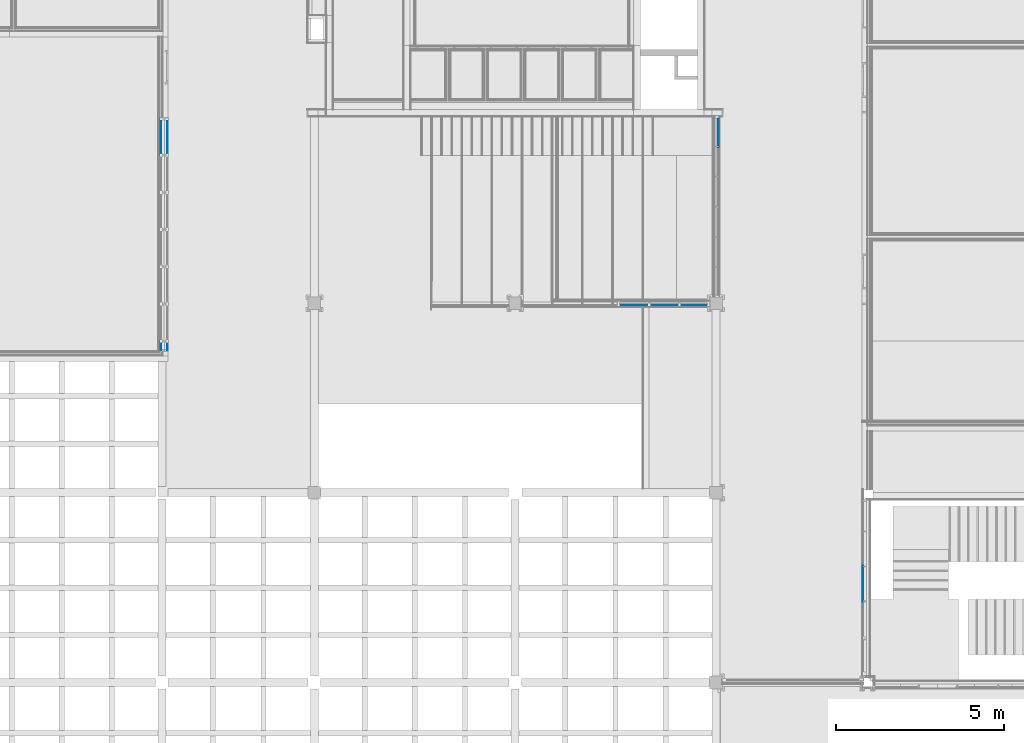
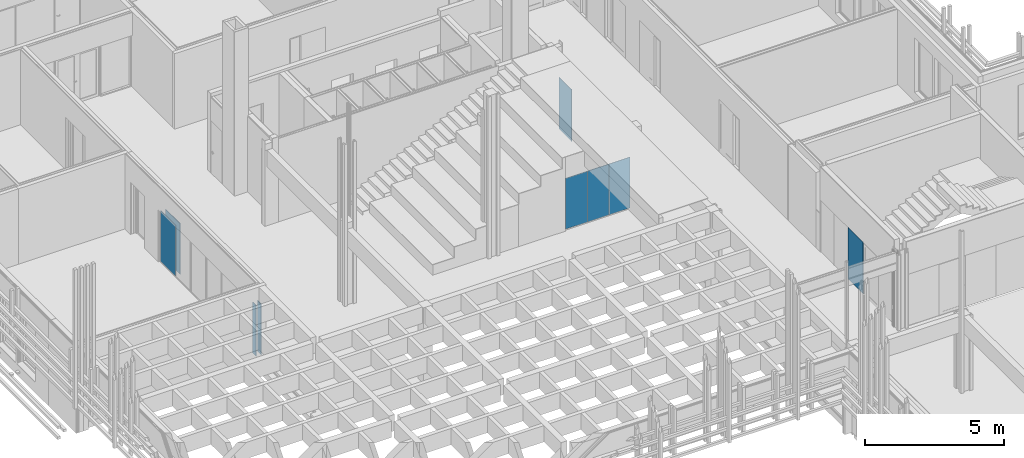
# One storey, part 53 of 139: 9 plates, 5 elements without a shape of their own.
"""IFC2X3 building model written with IfcOpenShell, lengths in millimetres."""

from ifc_helpers import new_model, entity, si_unit, converted_unit, derived_unit, money_unit, direction, frame, origin_with_axes, place, context, subcontext, project, spatial, faceted_brep, material, type_object, element, aggregate, save


model = new_model("IFC2X3")

# Units and contexts
model_context = context("Model", 3, precision=0.01, world=origin_with_axes(), true_north=direction((0.0, 1.0)))
body_context = subcontext(model_context, "Body", "Model", "MODEL_VIEW")
ifc_project = project(units=[si_unit("LENGTHUNIT", "METRE", prefix="MILLI"), si_unit("AREAUNIT", "SQUARE_METRE"), si_unit("VOLUMEUNIT", "CUBIC_METRE"), converted_unit("PLANEANGLEUNIT", "DEGREE", entity("IfcPlaneAngleMeasure", 0.0174532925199), si_unit("PLANEANGLEUNIT", "RADIAN"), dimensions=[0, 0, 0, 0, 0, 0, 0]), money_unit("EUR"), converted_unit("TIMEUNIT", "Year", entity("IfcTimeMeasure", 31556926.0), si_unit("TIMEUNIT", "SECOND"), dimensions=[0, 0, 1, 0, 0, 0, 0]), si_unit("MASSUNIT", "GRAM", prefix="KILO"), si_unit("THERMODYNAMICTEMPERATUREUNIT", "DEGREE_CELSIUS"), si_unit("LUMINOUSINTENSITYUNIT", "LUMEN"), si_unit("ENERGYUNIT", "JOULE", prefix="MEGA"), derived_unit("THERMALCONDUCTANCEUNIT", [(si_unit("POWERUNIT", "WATT"), 1), (si_unit("LENGTHUNIT", "METRE"), -1), (si_unit("THERMODYNAMICTEMPERATUREUNIT", "KELVIN"), -1)]), derived_unit("SPECIFICHEATCAPACITYUNIT", [(si_unit("ENERGYUNIT", "JOULE"), 1), (si_unit("MASSUNIT", "GRAM", prefix="KILO"), -1), (si_unit("THERMODYNAMICTEMPERATUREUNIT", "KELVIN"), -1)]), derived_unit("MASSDENSITYUNIT", [(si_unit("MASSUNIT", "GRAM", prefix="KILO"), 1), (si_unit("VOLUMEUNIT", "CUBIC_METRE"), -1)])], contexts=[model_context])

# Site, building, storey
site_placement = place(None, origin_with_axes())
site = spatial("IfcSite", under=ifc_project, at=site_placement, Name="Kolde pst 67a", CompositionType="ELEMENT")
building_placement = place(site_placement, origin_with_axes())
building = spatial("IfcBuilding", under=site, at=building_placement, Name="Riigigümnaasium", CompositionType="ELEMENT")
storey_placement = place(building_placement, frame((0.0, 0.0, 4600.0), z_axis=(0.0, 0.0, 1.0), x_axis=(1.0, 0.0, 0.0)))
storey = spatial("IfcBuildingStorey", under=building, at=storey_placement, Name="2. korrus", CompositionType="ELEMENT", Elevation=4600.0)

# Curtain wall, plate
curtain_wall_type = type_object("IfcCurtainWallType", Name="Curtain Wall Type", PredefinedType="NOTDEFINED")
curtain_wall_1_placement = place(storey_placement, frame((48304.9854607, 45219.9999598, 0.0), z_axis=(0.0, 0.0, 1.0), x_axis=(1.0, 0.0, 0.0)))
curtain_wall_1 = element("IfcCurtainWall", 1, at=curtain_wall_1_placement, inside=storey, type_object=curtain_wall_type, Name="KLAASSEIN")
ifc_material = material(Name="_GENEERILINE MATERJAL KLAAS")
plate_type_1 = type_object("IfcPlateType", Name="Distinct Panel 20 x 20 x 20", PredefinedType="NOTDEFINED")
plate_1_placement = place(curtain_wall_1_placement, frame((0.0, 0.0, 1150.0000447), z_axis=(0.0, 0.0, 1.0), x_axis=(0.0, 1.0, 0.0)))
plate_1 = element("IfcPlate", 2, at=plate_1_placement, type_object=plate_type_1, material=ifc_material, Name="RF PANEEL ERI-023", context=body_context, shape_type="Brep", body=[
    faceted_brep([(-470.00000149, 10.0, 1150.0000447), (-470.00000149, -10.0, 1150.0000447), (-449.999993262, -10.0, 1150.0000447), (-449.999993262, 10.0, 1150.0000447), (-470.00000149, 10.0, -1150.0000447), (-470.00000149, -10.0, -1150.0000447), (-449.999993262, -10.0, -1150.0000447), (-449.999993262, -10.0, -1130.00003648), (429.999991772, -10.0, -1130.00003648), (429.999991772, -10.0, 1130.00003648), (-449.999993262, -10.0, 1130.00003648), (-449.999993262, 10.0, 1130.00003648), (429.999991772, 10.0, 1130.00003648), (429.999991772, 10.0, -1130.00003648), (-449.999993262, 10.0, -1130.00003648), (-449.999993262, 10.0, -1150.0000447)], [[[0, 1, 2, 3]], [[4, 5, 1, 0]], [[1, 5, 6, 7, 8, 9, 10, 2]], [[3, 2, 10, 11]], [[0, 3, 11, 12, 13, 14, 15, 4]], [[15, 6, 5, 4]], [[14, 7, 6, 15]], [[13, 8, 7, 14]], [[12, 9, 8, 13]], [[11, 10, 9, 12]]]),
])
aggregate(curtain_wall_1, [plate_1])

curtain_wall_2_placement = place(storey_placement, frame((52619.9941222, 32759.7635899, -0.000120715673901), z_axis=(0.0, 0.0, 1.0), x_axis=(1.0, 0.0, 0.0)))
curtain_wall_2 = element("IfcCurtainWall", 3, at=curtain_wall_2_placement, inside=storey, type_object=curtain_wall_type, Name="KLAASSEIN")
plate_2_placement = place(curtain_wall_2_placement, frame((0.0, -1039.00000038, 1150.00006036), z_axis=(0.0, 0.0, 1.0), x_axis=(0.0, 1.0, 0.0)))
plate_2 = element("IfcPlate", 4, at=plate_2_placement, type_object=plate_type_1, material=ifc_material, Name="RF PANEEL ERI-061", context=body_context, shape_type="Brep", body=[
    faceted_brep([(-534.000007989, -10.0, 1150.00006036), (-513.999999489, -10.0, 1150.00006036), (-513.999999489, 10.0, 1150.00006036), (-534.000007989, 10.0, 1150.00006036), (-534.000007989, -10.0, -1150.00006036), (-513.999999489, -10.0, -1150.00006036), (-513.999999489, -10.0, -1130.00005186), (513.999991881, -10.0, -1130.00005186), (513.999991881, -10.0, -1150.00006036), (534.000000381, -10.0, -1150.00006036), (534.000000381, -10.0, 1150.00006036), (513.999991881, -10.0, 1150.00006036), (513.999991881, -10.0, 1130.00005186), (-513.999999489, -10.0, 1130.00005186), (-513.999999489, 10.0, 1130.00005186), (513.999991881, 10.0, 1130.00005186), (513.999991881, 10.0, 1150.00006036), (534.000000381, 10.0, 1150.00006036), (534.000000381, 10.0, -1150.00006036), (513.999991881, 10.0, -1150.00006036), (513.999991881, 10.0, -1130.00005186), (-513.999999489, 10.0, -1130.00005186), (-513.999999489, 10.0, -1150.00006036), (-534.000007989, 10.0, -1150.00006036)], [[[0, 1, 2, 3]], [[0, 4, 5, 6, 7, 8, 9, 10, 11, 12, 13, 1]], [[1, 13, 14, 2]], [[3, 2, 14, 15, 16, 17, 18, 19, 20, 21, 22, 23]], [[4, 0, 3, 23]], [[5, 4, 23, 22]], [[6, 5, 22, 21]], [[7, 6, 21, 20]], [[8, 7, 20, 19]], [[9, 8, 19, 18]], [[10, 9, 18, 17]], [[11, 10, 17, 16]], [[12, 11, 16, 15]], [[13, 12, 15, 14]]]),
])
aggregate(curtain_wall_2, [plate_2])

curtain_wall_3_placement = place(storey_placement, frame((31870.0027331, 43954.3993317, -4.05869560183e-06), z_axis=(0.0, 0.0, 1.0), x_axis=(1.0, 0.0, 0.0)))
curtain_wall_3 = element("IfcCurtainWall", 5, at=curtain_wall_3_placement, inside=storey, type_object=curtain_wall_type, Name="KLAASSEIN")
plate_type_2 = type_object("IfcPlateType", Name="Distinct Panel 1075 x 2240 x 20", PredefinedType="NOTDEFINED")
plate_3_placement = place(curtain_wall_3_placement, frame((0.0, 1110.0, 1150.00000203), z_axis=(0.0, 0.0, 1.0), x_axis=(0.0, 1.0, 0.0)))
plate_3 = element("IfcPlate", 6, at=plate_3_placement, type_object=plate_type_2, material=ifc_material, Name="RF PANEEL ERI-019", context=body_context, shape_type="Brep", body=[
    faceted_brep([(-550.000010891, 10.0, 1120.00000794), (-550.000010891, -10.0, 1120.00000794), (525.000005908, -10.0, 1120.00000794), (525.000005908, 10.0, 1120.00000794), (-550.000010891, 10.0, -1120.00000794), (-550.000010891, -10.0, -1120.00000794), (525.000005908, -10.0, -1120.00000794), (525.000005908, 10.0, -1120.00000794)], [[[0, 1, 2, 3]], [[4, 5, 1, 0]], [[1, 5, 6, 2]], [[3, 2, 6, 7]], [[0, 3, 7, 4]], [[7, 6, 5, 4]]]),
])

curtain_wall_4_placement = place(storey_placement, frame((31671.5141048, 43954.3993317, -3.29954614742e-05), z_axis=(0.0, 0.0, 1.0), x_axis=(1.0, 0.0, 0.0)))
curtain_wall_4 = element("IfcCurtainWall", 7, at=curtain_wall_4_placement, inside=storey, type_object=curtain_wall_type, Name="KLAASSEIN")
plate_4_placement = place(curtain_wall_4_placement, frame((0.0, 1110.0, 1150.0000165), z_axis=(0.0, 0.0, 1.0), x_axis=(0.0, 1.0, 0.0)))
plate_4 = element("IfcPlate", 8, at=plate_4_placement, type_object=plate_type_2, material=ifc_material, Name="RF PANEEL ERI-019", context=body_context, shape_type="Brep", body=[
    faceted_brep([(-550.000010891, -10.0, 1119.99999347), (525.000005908, -10.0, 1119.99999347), (525.000005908, 10.0, 1119.99999347), (-550.000010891, 10.0, 1119.99999347), (-550.000010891, -10.0, -1120.00002241), (525.000005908, -10.0, -1120.00002241), (525.000005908, 10.0, -1120.00002241), (-550.000010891, 10.0, -1120.00002241)], [[[0, 1, 2, 3]], [[0, 4, 5, 1]], [[1, 5, 6, 2]], [[3, 2, 6, 7]], [[4, 0, 3, 7]], [[5, 4, 7, 6]]]),
])

# Plate
plate_type_3 = type_object("IfcPlateType", Name="Distinct Panel 264 x 2240 x 20", PredefinedType="NOTDEFINED")
plate_5_placement = place(curtain_wall_3_placement, frame((0.0, -5144.7092172, 1150.00000203), z_axis=(0.0, 0.0, 1.0), x_axis=(0.0, 1.0, 0.0)))
plate_5 = element("IfcPlate", 9, at=plate_5_placement, type_object=plate_type_3, material=ifc_material, Name="RF PANEEL ERI-025", context=body_context, shape_type="Brep", body=[
    faceted_brep([(-119.709224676, 10.0, 1120.00000794), (-119.709224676, -10.0, 1120.00000794), (144.709206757, -10.0, 1120.00000794), (144.709206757, 10.0, 1120.00000794), (-119.709224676, 10.0, -1120.00000794), (-119.709224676, -10.0, -1120.00000794), (144.709206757, -10.0, -1120.00000794), (144.709206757, 10.0, -1120.00000794)], [[[0, 1, 2, 3]], [[4, 5, 1, 0]], [[1, 5, 6, 2]], [[3, 2, 6, 7]], [[0, 3, 7, 4]], [[7, 6, 5, 4]]]),
])

aggregate(curtain_wall_3, [plate_3, plate_5])

plate_6_placement = place(curtain_wall_4_placement, frame((0.0, -5144.7092172, 1150.0000165), z_axis=(0.0, 0.0, 1.0), x_axis=(0.0, 1.0, 0.0)))
plate_6 = element("IfcPlate", 10, at=plate_6_placement, type_object=plate_type_3, material=ifc_material, Name="RF PANEEL ERI-025", context=body_context, shape_type="Brep", body=[
    faceted_brep([(-119.709224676, -10.0, 1119.99999347), (144.709206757, -10.0, 1119.99999347), (144.709206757, 10.0, 1119.99999347), (-119.709224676, 10.0, 1119.99999347), (-119.709224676, -10.0, -1120.00002241), (144.709206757, -10.0, -1120.00002241), (144.709206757, 10.0, -1120.00002241), (-119.709224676, 10.0, -1120.00002241)], [[[0, 1, 2, 3]], [[0, 4, 5, 1]], [[1, 5, 6, 2]], [[3, 2, 6, 7]], [[4, 0, 3, 7]], [[5, 4, 7, 6]]]),
])

aggregate(curtain_wall_4, [plate_4, plate_6])

# Curtain wall, plates
curtain_wall_5_placement = place(storey_placement, frame((47589.9854607, 40044.9999177, -2.01657108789e-05), z_axis=(0.0, 0.0, 1.0), x_axis=(1.0, 0.0, 0.0)))
curtain_wall_5 = element("IfcCurtainWall", 11, at=curtain_wall_5_placement, inside=storey, type_object=curtain_wall_type, Name="KLAASSEIN")
plate_type_4 = type_object("IfcPlateType", Name="Distinct Panel 865 x 2240 x 20", PredefinedType="NOTDEFINED")
plate_7_placement = place(curtain_wall_5_placement, frame((0.0, 0.0, 1150.00001008), z_axis=(0.0, 0.0, 1.0), x_axis=(1.0, 0.0, 0.0)))
plate_7 = element("IfcPlate", 12, at=plate_7_placement, type_object=plate_type_4, material=ifc_material, Name="RF PANEEL ERI-041", context=body_context, shape_type="Brep", body=[
    faceted_brep([(-444.99999242, 10.0, 1120.00002201), (-444.99999242, -10.0, 1120.00002201), (420.000005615, -10.0, 1120.00002201), (420.000005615, 10.0, 1120.00002201), (-444.99999242, 10.0, -1120.0000157), (-444.99999242, -10.0, -1120.0000157), (420.000005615, -10.0, -1120.0000157), (420.000005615, 10.0, -1120.0000157)], [[[0, 1, 2, 3]], [[4, 5, 1, 0]], [[1, 5, 6, 2]], [[3, 2, 6, 7]], [[0, 3, 7, 4]], [[7, 6, 5, 4]]]),
])
plate_type_5 = type_object("IfcPlateType", Name="Distinct Panel 890 x 2240 x 20", PredefinedType="NOTDEFINED")
plate_8_placement = place(curtain_wall_5_placement, frame((-900.0, 0.0, 1150.00001008), z_axis=(0.0, 0.0, 1.0), x_axis=(1.0, 0.0, 0.0)))
plate_8 = element("IfcPlate", 13, at=plate_8_placement, type_object=plate_type_5, material=ifc_material, Name="RF PANEEL ERI-042", context=body_context, shape_type="Brep", body=[
    faceted_brep([(-444.99999242, 10.0, 1120.00002201), (-444.99999242, -10.0, 1120.00002201), (444.999989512, -10.0, 1120.00002201), (444.999989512, 10.0, 1120.00002201), (-444.99999242, 10.0, -1120.0000157), (-444.99999242, -10.0, -1120.0000157), (444.999989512, -10.0, -1120.0000157), (444.999989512, 10.0, -1120.0000157)], [[[0, 1, 2, 3]], [[4, 5, 1, 0]], [[1, 5, 6, 2]], [[3, 2, 6, 7]], [[0, 3, 7, 4]], [[7, 6, 5, 4]]]),
])
plate_type_6 = type_object("IfcPlateType", Name="Distinct Panel 895 x 2240 x 20", PredefinedType="NOTDEFINED")
plate_9_placement = place(curtain_wall_5_placement, frame((-1966.66667263, 0.0, 1150.00001008), z_axis=(0.0, 0.0, 1.0), x_axis=(1.0, 0.0, 0.0)))
plate_9 = element("IfcPlate", 14, at=plate_9_placement, type_object=plate_type_6, material=ifc_material, Name="RF PANEEL ERI-052", context=body_context, shape_type="Brep", body=[
    faceted_brep([(-303.333335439, 10.0, 1120.00001578), (-303.333335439, -10.0, 1120.00001578), (-283.333327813, -10.0, 1120.00001578), (-283.333327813, 10.0, 1120.00001578), (-303.333335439, 10.0, -1120.00001578), (-303.333335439, -10.0, -1120.00001578), (-283.333327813, -10.0, -1120.00001578), (611.666662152, -10.0, -1120.00001578), (611.666662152, -10.0, 1120.00001578), (611.666662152, 10.0, 1120.00001578), (611.666662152, 10.0, -1120.00001578), (-283.333327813, 10.0, -1120.00001578)], [[[0, 1, 2, 3]], [[4, 5, 1, 0]], [[1, 5, 6, 7, 8, 2]], [[3, 2, 8, 9]], [[0, 3, 9, 10, 11, 4]], [[11, 6, 5, 4]], [[10, 7, 6, 11]], [[9, 8, 7, 10]]]),
])
aggregate(curtain_wall_5, [plate_7, plate_8, plate_9])

save(model, "model.ifc")
